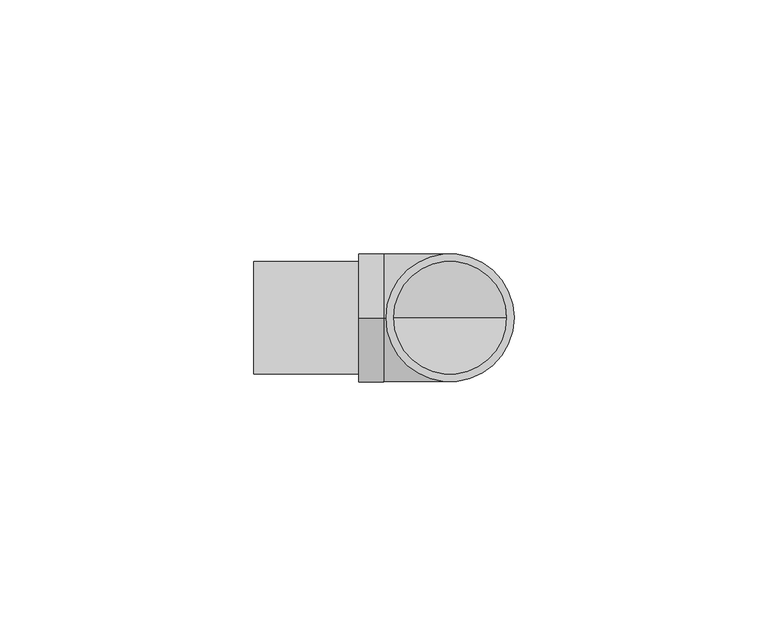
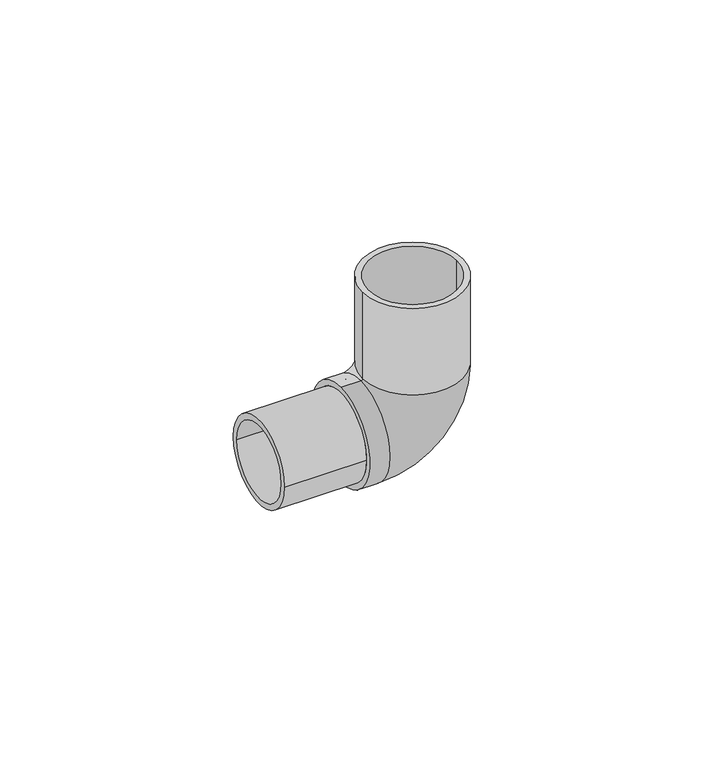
"""IFC4 building model written with IfcOpenShell, lengths in millimetres: pipe fitting geometry, Codo Pipa 90°_Lubrizol_CPVC_FlowGuard_MX 19mm : Codo Pipa 90°_Lubrizol_CPVC_FlowGuard_MX 19mm."""

from ifc_helpers import new_model, si_unit, point, frame, frame_2d, origin, place, context, project, spatial, polyline, circle_curve, ellipse_curve, trimmed, segment, composite_curve, outline, extrude, source, transform, mapped, element, save
from ifc_brep_helpers import plane_surface, cylinder_surface, revolved_surface, advanced_brep


def pipe_fitting_ff59a37d(model_context):
    return source(origin(), model_context, "Body", "SolidModel", [
        extrude(outline(composite_curve([segment(trimmed(circle_curve(frame_2d((0.0, 130.0832253)), 11.1), [point((11.1, 130.0832253))], [point((-11.1, 130.0832253))], False, "CARTESIAN"), True, "CONTINUOUS"), segment(trimmed(circle_curve(frame_2d((0.0, 130.0832253)), 11.1), [point((-11.1, 130.0832253))], [point((11.1, 130.0832253))], False, "CARTESIAN"), True, "CONTINUOUS")], self_intersect=False), holes=[composite_curve([segment(trimmed(circle_curve(frame_2d((0.0, 130.0832253)), 9.6), [point((9.6, 130.0832253))], [point((-9.6, 130.0832253))], True, "CARTESIAN"), True, "CONTINUOUS"), segment(trimmed(circle_curve(frame_2d((0.0, 130.0832253)), 9.6), [point((-9.6, 130.0832253))], [point((9.6, 130.0832253))], True, "CARTESIAN"), True, "CONTINUOUS")], self_intersect=False)]), frame((-124.8441701, 0.0, 0.0), z_axis=(1.0, 0.0, 0.0), x_axis=(0.0, 1.0, 0.0)), (0.0, 0.0, 1.0), 20.5898638),
        advanced_brep(
        [(-104.2543063, 0.0, 142.6832253), (-104.2543063, 0.0, 117.4832253), (-104.2543063, 0.0, 141.1832253), (-104.2543063, 0.0, 118.9832253), (-99.2543063, 0.0, 141.1832253), (-99.2543063, 0.0, 118.9832253), (-75.1543063, 0.0, 143.0832253), (-97.3543063, 0.0, 143.0832253), (-98.8543063, 0.0, 166.0832253), (-73.6543063, 0.0, 166.0832253), (-97.3543063, 0.0, 166.0832253), (-75.1543063, 0.0, 166.0832253), (-99.2543063, 0.0, 142.6832253), (-99.2543063, 0.0, 117.4832253), (-73.6543063, 0.0, 143.0832253), (-98.8543063, 0.0, 143.0832253)],
        [
            (0, 1, circle_curve(frame((-104.2543063, 0.0, 130.0832253), z_axis=(-1.0, 0.0, 0.0), x_axis=(0.0, 0.0, -1.0)), 12.6)),
            (1, 0, circle_curve(frame((-104.2543063, 0.0, 130.0832253), z_axis=(-1.0, 0.0, 0.0), x_axis=(0.0, 0.0, -1.0)), 12.6)),
            (2, 3, circle_curve(frame((-104.2543063, 0.0, 130.0832253), z_axis=(1.0, 0.0, 0.0), x_axis=(0.0, 0.0, -1.0)), 11.1)),
            (3, 2, circle_curve(frame((-104.2543063, 0.0, 130.0832253), z_axis=(1.0, 0.0, 0.0), x_axis=(0.0, 0.0, -1.0)), 11.1)),
            (2, 4),
            (4, 5, circle_curve(frame((-99.2543063, 0.0, 130.0832253), z_axis=(1.0, 0.0, 0.0), x_axis=(0.0, 0.0, -1.0)), 11.1)),
            (5, 3),
            (5, 4, circle_curve(frame((-99.2543063, 0.0, 130.0832253), z_axis=(1.0, 0.0, 0.0), x_axis=(0.0, 0.0, -1.0)), 11.1)),
            (6, 5, circle_curve(frame((-99.2543063, 0.0, 143.0832253), z_axis=(0.0, 1.0, 0.0), x_axis=(0.0, 0.0, -1.0)), 24.1)),
            (4, 7, circle_curve(frame((-99.2543063, 0.0, 143.0832253), z_axis=(0.0, -1.0, 0.0), x_axis=(0.0, 0.0, -1.0)), 1.9)),
            (7, 6, circle_curve(frame((-86.2543063, 0.0, 143.0832253), z_axis=(0.0, 0.0, 1.0), x_axis=(1.0, 0.0, 0.0)), 11.1)),
            (6, 7, circle_curve(frame((-86.2543063, 0.0, 143.0832253), z_axis=(0.0, 0.0, 1.0), x_axis=(1.0, 0.0, 0.0)), 11.1)),
            (8, 9, circle_curve(frame((-86.2543063, 0.0, 166.0832253), z_axis=(0.0, 0.0, 1.0), x_axis=(1.0, 0.0, 0.0)), 12.6)),
            (9, 8, circle_curve(frame((-86.2543063, 0.0, 166.0832253), z_axis=(0.0, 0.0, 1.0), x_axis=(1.0, 0.0, 0.0)), 12.6)),
            (10, 11, circle_curve(frame((-86.2543063, 0.0, 166.0832253), z_axis=(0.0, 0.0, -1.0), x_axis=(1.0, 0.0, 0.0)), 11.1)),
            (11, 10, circle_curve(frame((-86.2543063, 0.0, 166.0832253), z_axis=(0.0, 0.0, -1.0), x_axis=(1.0, 0.0, 0.0)), 11.1)),
            (7, 10),
            (11, 6),
            (0, 12),
            (12, 13, circle_curve(frame((-99.2543063, 0.0, 130.0832253), z_axis=(-1.0, 0.0, 0.0), x_axis=(0.0, 0.0, -1.0)), 12.6)),
            (13, 1),
            (13, 12, circle_curve(frame((-99.2543063, 0.0, 130.0832253), z_axis=(-1.0, 0.0, 0.0), x_axis=(0.0, 0.0, -1.0)), 12.6)),
            (14, 13, circle_curve(frame((-99.2543063, 0.0, 143.0832253), z_axis=(0.0, 1.0, 0.0), x_axis=(0.0, 0.0, -1.0)), 25.6)),
            (12, 15, circle_curve(frame((-99.2543063, 0.0, 143.0832253), z_axis=(0.0, -1.0, 0.0), x_axis=(0.0, 0.0, -1.0)), 0.4)),
            (15, 14, circle_curve(frame((-86.2543063, 0.0, 143.0832253), z_axis=(0.0, 0.0, -1.0), x_axis=(1.0, 0.0, 0.0)), 12.6)),
            (14, 15, circle_curve(frame((-86.2543063, 0.0, 143.0832253), z_axis=(0.0, 0.0, -1.0), x_axis=(1.0, 0.0, 0.0)), 12.6)),
            (15, 8),
            (9, 14),
        ],
        [
            plane_surface(frame((-104.2543063, 0.0, 130.0832253), z_axis=(-1.0, 0.0, 0.0), x_axis=(0.0, -1.0, 0.0))),
            revolved_surface(polyline([(-99.2543063, 0.0, 118.98322530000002), (-104.2543063, 0.0, 118.98322530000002)]), (-104.2543063, 0.0, 130.0832253), (1.0, 0.0, 0.0)),
            revolved_surface(trimmed(ellipse_curve(frame((-99.2543063, 0.0, 130.0832253), z_axis=(1.0, 0.0, 0.0), x_axis=(0.0, 0.0, -1.0)), 11.1, 11.1), [point((-99.2543063, 0.0, 141.1832253))], [point((-99.2543063, 0.0, 118.9832253))], True, "CARTESIAN"), (-99.2543063, 0.0, 143.0832253), (0.0, -1.0, 0.0)),
            revolved_surface(trimmed(ellipse_curve(frame((-99.2543063, 0.0, 130.0832253), z_axis=(1.0, 0.0, 0.0), x_axis=(0.0, 0.0, -1.0)), 11.1, 11.1), [point((-99.2543063, 0.0, 118.9832253))], [point((-99.2543063, 0.0, 141.1832253))], True, "CARTESIAN"), (-99.2543063, 0.0, 143.0832253), (0.0, -1.0, 0.0)),
            plane_surface(frame((-86.2543063, 0.0, 166.0832253), z_axis=(0.0, 0.0, 1.0), x_axis=(0.0, -1.0, 0.0))),
            revolved_surface(polyline([(-75.1543063, 0.0, 166.0832253), (-75.1543063, 0.0, 143.0832253)]), (-86.2543063, 0.0, 143.0832253), (0.0, 0.0, 1.0)),
            cylinder_surface(frame((-104.2543063, 0.0, 130.0832253), z_axis=(-1.0, 0.0, 0.0), x_axis=(0.0, 0.0, -1.0)), 12.6),
            revolved_surface(trimmed(ellipse_curve(frame((-99.2543063, 0.0, 130.0832253), z_axis=(-1.0, 0.0, 0.0), x_axis=(0.0, 0.0, -1.0)), 12.6, 12.6), [point((-99.2543063, 0.0, 142.6832253))], [point((-99.2543063, 0.0, 117.4832253))], True, "CARTESIAN"), (-99.2543063, 0.0, 143.0832253), (0.0, -1.0, 0.0)),
            revolved_surface(trimmed(ellipse_curve(frame((-99.2543063, 0.0, 130.0832253), z_axis=(-1.0, 0.0, 0.0), x_axis=(0.0, 0.0, -1.0)), 12.6, 12.6), [point((-99.2543063, 0.0, 117.4832253))], [point((-99.2543063, 0.0, 142.6832253))], True, "CARTESIAN"), (-99.2543063, 0.0, 143.0832253), (0.0, -1.0, 0.0)),
            cylinder_surface(frame((-86.2543063, 0.0, 143.0832253), z_axis=(0.0, 0.0, -1.0), x_axis=(1.0, 0.0, 0.0)), 12.6),
        ],
        [
            (0, [[1, 2], [3, 4]]),
            (1, [[-3, 5, 6, 7]]),
            (1, [[-4, -7, 8, -5]]),
            (2, [[9, -6, 10, 11]]),
            (3, [[-10, -8, -9, 12]]),
            (4, [[13, 14], [15, 16]]),
            (5, [[-11, 17, -16, 18]]),
            (5, [[-12, -18, -15, -17]]),
            (6, [[-1, 19, 20, 21]]),
            (6, [[-2, -21, 22, -19]]),
            (7, [[23, -20, 24, 25]]),
            (8, [[-24, -22, -23, 26]]),
            (9, [[-25, 27, -14, 28]]),
            (9, [[-26, -28, -13, -27]]),
        ],
    ),
    ])


if __name__ == "__main__":
    model = new_model("IFC4")
    model_context = context("Model", 3, world=origin())
    ifc_project = project(units=[si_unit("LENGTHUNIT", "METRE", prefix="MILLI")], contexts=[model_context])
    site = spatial("IfcSite", under=ifc_project)
    building = spatial("IfcBuilding", under=site)
    placement = place(None, origin())
    pipe_fitting_shape = pipe_fitting_ff59a37d(model_context)
    element("IfcPipeFitting", 1, ObjectType="Codo Pipa 90°_Lubrizol_CPVC_FlowGuard_MX 19mm : Codo Pipa 90°_Lubrizol_CPVC_FlowGuard_MX 19mm", at=placement, inside=building, context=model_context, shape_type="MappedRepresentation", body=[
        mapped(pipe_fitting_shape, transform((0.0, 0.0, 0.0), x_axis=(1.0, 0.0, 0.0), y_axis=(0.0, 1.0, 0.0), z_axis=(0.0, 0.0, 1.0))),
    ])
    save(model, "model.ifc")
